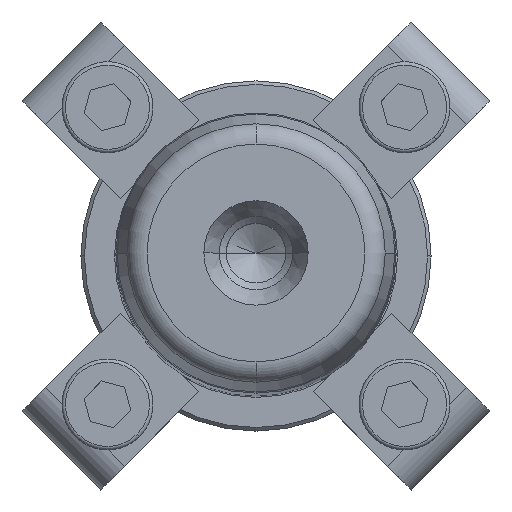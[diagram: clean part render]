
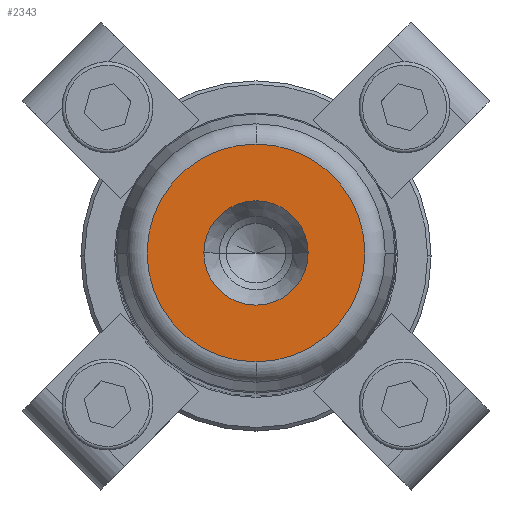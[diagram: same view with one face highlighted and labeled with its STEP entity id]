
A CAD part, top view. The second image highlights one B-rep face of the part: STEP entity #2343.
In plain terms, the highlighted planar face has unit normal (0, 0, 1).
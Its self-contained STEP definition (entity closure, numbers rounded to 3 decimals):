
#431=CARTESIAN_POINT('',(7.45,0.,250.0));
#432=VERTEX_POINT('',#431);
#439=CARTESIAN_POINT('',(-7.45,0.,250.0));
#440=VERTEX_POINT('',#439);
#441=CARTESIAN_POINT('',(0.0,0.,250.0));
#442=DIRECTION('',(0.0,0.0,1.0));
#443=DIRECTION('',(1.0,0.0,0.0));
#444=AXIS2_PLACEMENT_3D('',#441,#442,#443);
#445=CIRCLE('',#444,7.45);
#446=EDGE_CURVE('',#432,#440,#445,.T.);
#463=CARTESIAN_POINT('',(0.0,-15.554,250.));
#464=VERTEX_POINT('',#463);
#474=CARTESIAN_POINT('',(0.,15.554,250.0));
#475=VERTEX_POINT('',#474);
#476=CARTESIAN_POINT('',(0.0,0.,250.0));
#477=DIRECTION('',(0.0,0.0,1.0));
#478=DIRECTION('',(1.0,0.0,0.0));
#479=AXIS2_PLACEMENT_3D('',#476,#477,#478);
#480=CIRCLE('',#479,15.554);
#481=EDGE_CURVE('',#475,#464,#480,.T.);
#2304=CARTESIAN_POINT('',(15.554,0.,250.));
#2305=VERTEX_POINT('',#2304);
#2306=CARTESIAN_POINT('',(0.0,0.,250.0));
#2307=DIRECTION('',(0.0,0.0,1.0));
#2308=DIRECTION('',(1.0,0.0,0.0));
#2309=AXIS2_PLACEMENT_3D('',#2306,#2307,#2308);
#2310=CIRCLE('',#2309,15.554);
#2311=EDGE_CURVE('',#2305,#475,#2310,.T.);
#2313=CARTESIAN_POINT('',(0.0,0.,250.0));
#2314=DIRECTION('',(0.0,0.0,1.0));
#2315=DIRECTION('',(1.0,0.0,0.0));
#2316=AXIS2_PLACEMENT_3D('',#2313,#2314,#2315);
#2317=CIRCLE('',#2316,15.554);
#2318=EDGE_CURVE('',#464,#2305,#2317,.T.);
#2323=CARTESIAN_POINT('',(11.502,0.,250.0));
#2324=DIRECTION('',(0.0,0.0,1.0));
#2325=DIRECTION('',(0.0,-1.0,0.0));
#2326=AXIS2_PLACEMENT_3D('',#2323,#2324,#2325);
#2327=PLANE('',#2326);
#2328=ORIENTED_EDGE('',*,*,#2311,.T.);
#2329=ORIENTED_EDGE('',*,*,#481,.T.);
#2330=ORIENTED_EDGE('',*,*,#2318,.T.);
#2331=EDGE_LOOP('',(#2328,#2329,#2330));
#2332=FACE_OUTER_BOUND('',#2331,.T.);
#2333=ORIENTED_EDGE('',*,*,#446,.F.);
#2334=CARTESIAN_POINT('',(0.0,0.,250.0));
#2335=DIRECTION('',(0.0,0.0,1.0));
#2336=DIRECTION('',(1.0,0.0,0.0));
#2337=AXIS2_PLACEMENT_3D('',#2334,#2335,#2336);
#2338=CIRCLE('',#2337,7.45);
#2339=EDGE_CURVE('',#440,#432,#2338,.T.);
#2340=ORIENTED_EDGE('',*,*,#2339,.F.);
#2341=EDGE_LOOP('',(#2333,#2340));
#2342=FACE_BOUND('',#2341,.T.);
#2343=ADVANCED_FACE('',(#2332,#2342),#2327,.T.);
